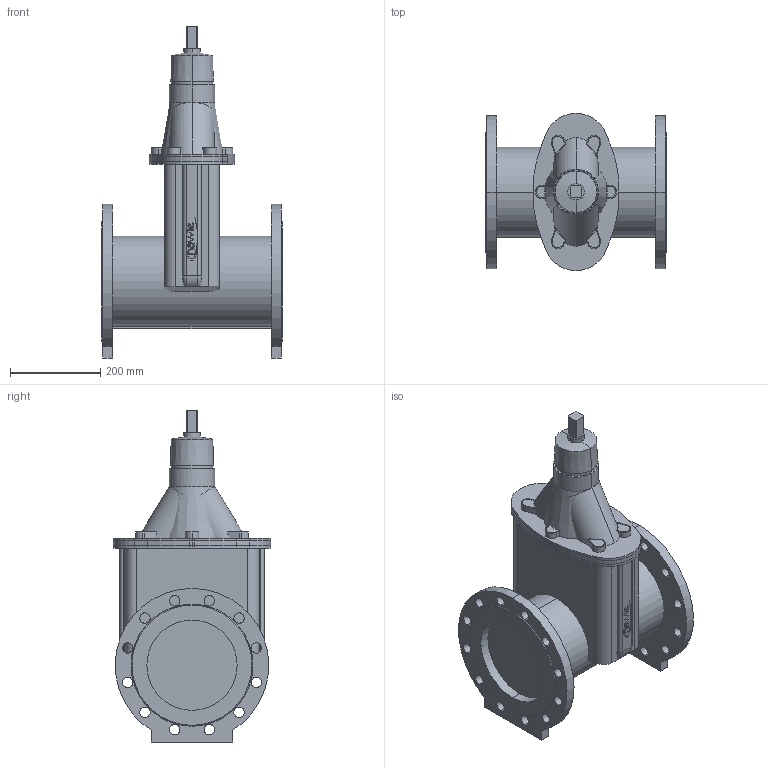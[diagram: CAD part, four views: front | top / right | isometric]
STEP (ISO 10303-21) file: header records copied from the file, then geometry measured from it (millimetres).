
FILE_DESCRIPTION(('STEP AP214'),'1');
FILE_NAME('S:/EK/USER/CAT6/3DHomepage/4700E2/4700E2-PN16-DN200.STP','2012-04-23T12:28:26',(' '),(' '),'Spatial InterOp 3D',' ',' ');
FILE_SCHEMA(('automotive_design'));
Length unit declared in the file: millimetre
Products named in the file (51): 3D-Objekt
Bounding box: 400 x 348.01 x 735 mm (x, y, z)
Volume: 28596146.2 mm3; surface area: 1762788 mm2
Topology: 51 solids, 51 shells, 498 faces, 1182 edges, 788 vertices
Faces by surface type: plane 248, cylinder 232, cone 10, bspline 4, torus 4
Entity records: 19881 total; most frequent: DIRECTION 2776, CARTESIAN_POINT 2587, ORIENTED_EDGE 2364, EDGE_CURVE 1182, AXIS2_PLACEMENT_3D 1049, VERTEX_POINT 788, LINE 678, VECTOR 678
